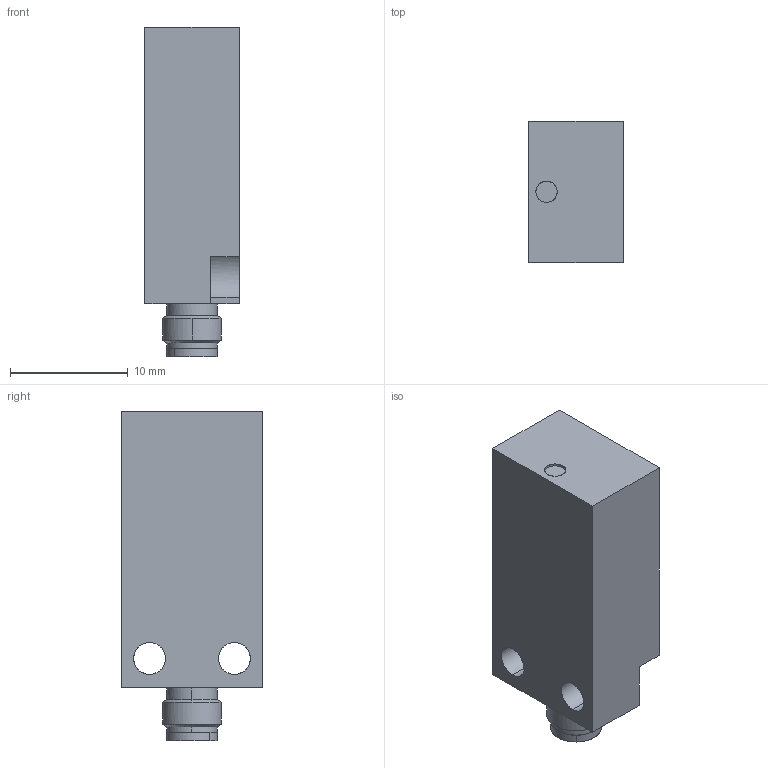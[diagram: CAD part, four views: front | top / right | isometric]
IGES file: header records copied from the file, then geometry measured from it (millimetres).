
Start section: Comment
Global section: file name: IFFM 12xx7A3_S05L.igs; native system:  By Spatial Corp.; preprocessor: XPlus GENERIC/IGES 3.0; author: Author; organization: Title; date: 20060328.142448; units: inch
Bounding box: 8 x 12 x 28 mm (x, y, z)
Surface area: 1370 mm2 (no closed solid volume)
Topology: 0 solids, 0 shells, 95 faces, 460 edges, 444 vertices
Faces by surface type: bspline 95
